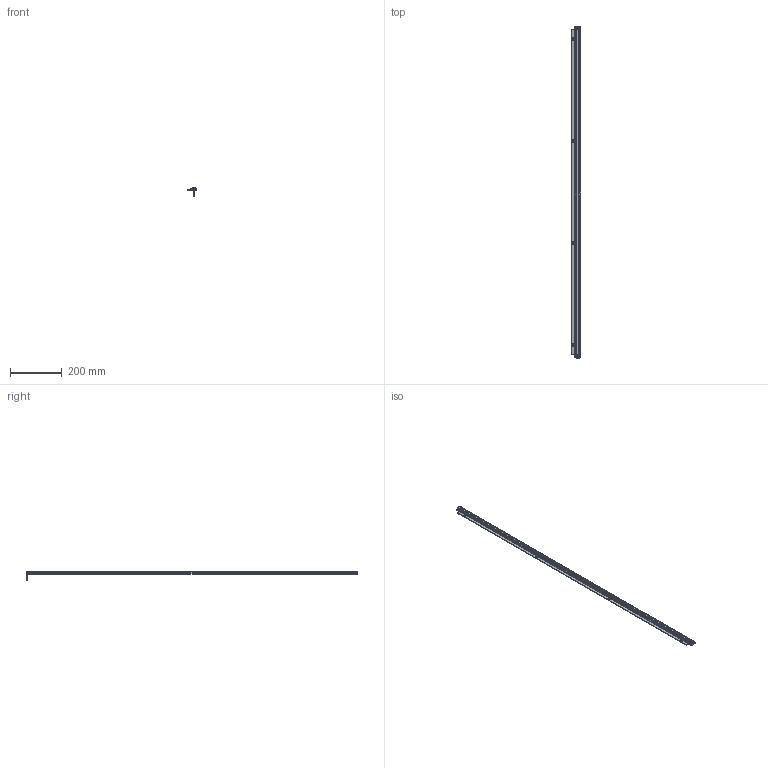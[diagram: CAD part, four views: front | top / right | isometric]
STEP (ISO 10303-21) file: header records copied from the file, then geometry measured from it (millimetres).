
FILE_DESCRIPTION (( 'STEP AP214' ), '1' );
FILE_NAME ('ILGA-L-K1a-1280mm.STEP', '2026-04-24T23:09:31', ( '' ), ( '' ), 'SwSTEP 2.0', 'SolidWorks 2025', '' );
FILE_SCHEMA (( 'AUTOMOTIVE_DESIGN' ));
Length unit declared in the file: millimetre
Products named in the file (1): ILGA-L-K1a-1280mm
Bounding box: 35 x 1280 x 34.2 mm (x, y, z)
Volume: 133484.4 mm3; surface area: 197503 mm2
Topology: 9 solids, 9 shells, 684 faces, 1778 edges, 1086 vertices
Faces by surface type: plane 293, cylinder 247, cone 60, torus 44, bspline 24, sphere 16
Entity records: 28741 total; most frequent: CARTESIAN_POINT 4449, DIRECTION 3632, ORIENTED_EDGE 3468, EDGE_CURVE 1734, AXIS2_PLACEMENT_3D 1357, VERTEX_POINT 1086, VECTOR 918, LINE 918
